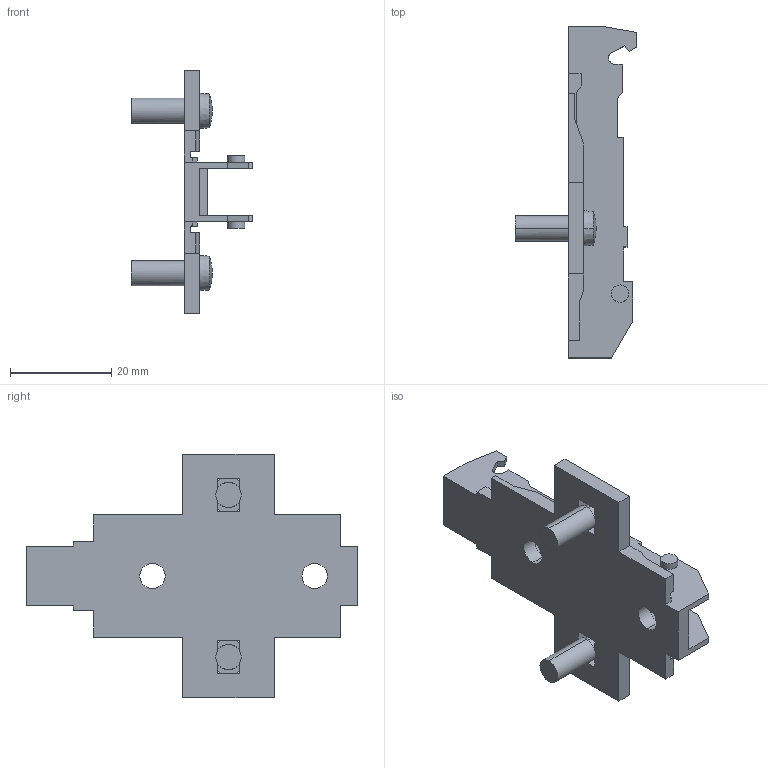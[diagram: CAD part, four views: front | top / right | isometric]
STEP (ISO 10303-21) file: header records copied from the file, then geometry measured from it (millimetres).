
FILE_DESCRIPTION (( 'STEP AP214' ), '1' );
FILE_NAME ('1D_Kreuzmontageplatte 37_32_5mm_Dübel_lang_3.step', '2010-11-18T10:21:34', ( 'grass' ), ( '' ), 'SwSTEP 2.0', 'SolidWorks 2010', '' );
FILE_SCHEMA (( 'AUTOMOTIVE_DESIGN' ));
Length unit declared in the file: millimetre
Products named in the file (1): 1D_Kreuzmontageplatte 37_32_5mm_Dübel_lang_3
Bounding box: 24 x 65.5 x 48 mm (x, y, z)
Volume: 6773.6 mm3; surface area: 7349.9 mm2
Topology: 1 solids, 1 shells, 130 faces, 400 edges, 258 vertices
Faces by surface type: plane 100, cylinder 22, sphere 4, cone 4
Entity records: 4506 total; most frequent: ORIENTED_EDGE 800, CARTESIAN_POINT 789, DIRECTION 742, EDGE_CURVE 400, LINE 320, VECTOR 320, VERTEX_POINT 258, AXIS2_PLACEMENT_3D 211
